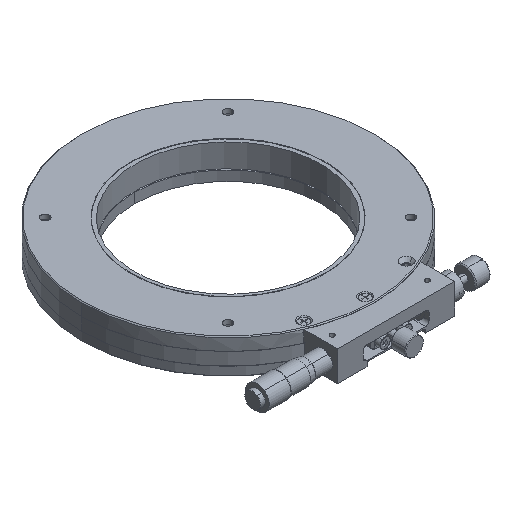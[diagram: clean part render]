
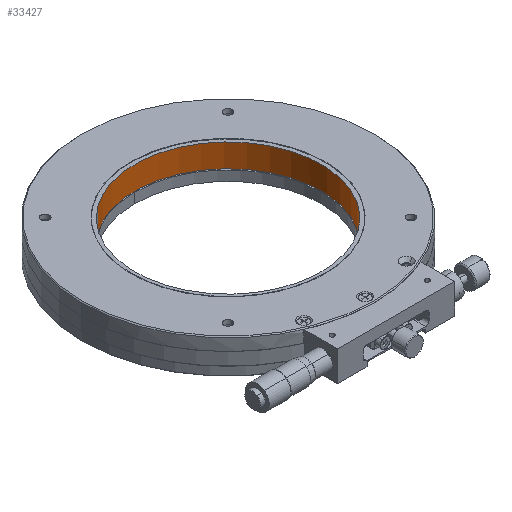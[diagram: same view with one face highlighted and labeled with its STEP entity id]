
A CAD part, isometric view. The second image highlights one B-rep face of the part: STEP entity #33427.
In plain terms, the highlighted cylindrical face has radius 51 mm (diameter 102 mm), a partial arc.
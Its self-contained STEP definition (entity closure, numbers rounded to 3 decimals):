
#864 = AXIS2_PLACEMENT_3D ( 'NONE', #21764, #5557, #11632 ) ;
#1909 = VERTEX_POINT ( 'NONE', #31420 ) ;
#2561 = CARTESIAN_POINT ( 'NONE',  ( 16.754, -4.994, 97.493 ) ) ;
#2723 = DIRECTION ( 'NONE',  ( -0.597, 0.802, 0. ) ) ;
#2921 = EDGE_LOOP ( 'NONE', ( #21175, #41008, #8005, #12244 ) ) ;
#5095 = LINE ( 'NONE', #2561, #12841 ) ;
#5557 = DIRECTION ( 'NONE',  ( 0., 0., 1. ) ) ;
#5686 = VECTOR ( 'NONE', #27324, 1000. ) ;
#6697 = VERTEX_POINT ( 'NONE', #30643 ) ;
#8005 = ORIENTED_EDGE ( 'NONE', *, *, #17919, .T. ) ;
#9250 = EDGE_CURVE ( 'NONE', #6697, #26220, #19987, .T. ) ;
#11632 = DIRECTION ( 'NONE',  ( -0.597, 0.802, 0. ) ) ;
#11788 = AXIS2_PLACEMENT_3D ( 'NONE', #22127, #25565, #2723 ) ;
#12244 = ORIENTED_EDGE ( 'NONE', *, *, #9250, .F. ) ;
#12841 = VECTOR ( 'NONE', #31696, 1000. ) ;
#16625 = CIRCLE ( 'NONE', #32996, 51. ) ;
#17526 = EDGE_CURVE ( 'NONE', #29918, #6697, #21057, .T. ) ;
#17919 = EDGE_CURVE ( 'NONE', #1909, #26220, #5095, .T. ) ;
#18442 = CARTESIAN_POINT ( 'NONE',  ( 77.627, -86.838, 94.193 ) ) ;
#19987 = CIRCLE ( 'NONE', #864, 51. ) ;
#21057 = LINE ( 'NONE', #37075, #5686 ) ;
#21175 = ORIENTED_EDGE ( 'NONE', *, *, #17526, .F. ) ;
#21482 = CYLINDRICAL_SURFACE ( 'NONE', #11788, 51. ) ;
#21764 = CARTESIAN_POINT ( 'NONE',  ( 47.19, -45.916, 81.493 ) ) ;
#22127 = CARTESIAN_POINT ( 'NONE',  ( 47.19, -45.916, 97.493 ) ) ;
#24416 = EDGE_CURVE ( 'NONE', #1909, #29918, #16625, .T. ) ;
#25565 = DIRECTION ( 'NONE',  ( 0., 0., -1. ) ) ;
#25589 = DIRECTION ( 'NONE',  ( -0.597, 0.802, 0. ) ) ;
#26220 = VERTEX_POINT ( 'NONE', #33291 ) ;
#27324 = DIRECTION ( 'NONE',  ( 0., 0., -1. ) ) ;
#29918 = VERTEX_POINT ( 'NONE', #18442 ) ;
#30643 = CARTESIAN_POINT ( 'NONE',  ( 77.627, -86.838, 81.493 ) ) ;
#31420 = CARTESIAN_POINT ( 'NONE',  ( 16.754, -4.994, 94.193 ) ) ;
#31696 = DIRECTION ( 'NONE',  ( 0., 0., -1. ) ) ;
#32996 = AXIS2_PLACEMENT_3D ( 'NONE', #35463, #41634, #25589 ) ;
#33291 = CARTESIAN_POINT ( 'NONE',  ( 16.754, -4.994, 81.493 ) ) ;
#33427 = ADVANCED_FACE ( 'NONE', ( #41511 ), #21482, .F. ) ;
#35463 = CARTESIAN_POINT ( 'NONE',  ( 47.19, -45.916, 94.193 ) ) ;
#37075 = CARTESIAN_POINT ( 'NONE',  ( 77.627, -86.838, 97.493 ) ) ;
#41008 = ORIENTED_EDGE ( 'NONE', *, *, #24416, .F. ) ;
#41511 = FACE_OUTER_BOUND ( 'NONE', #2921, .T. ) ;
#41634 = DIRECTION ( 'NONE',  ( 0., 0., -1. ) ) ;
